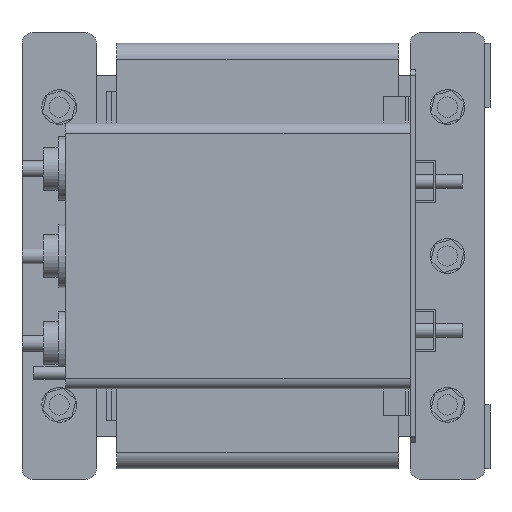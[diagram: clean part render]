
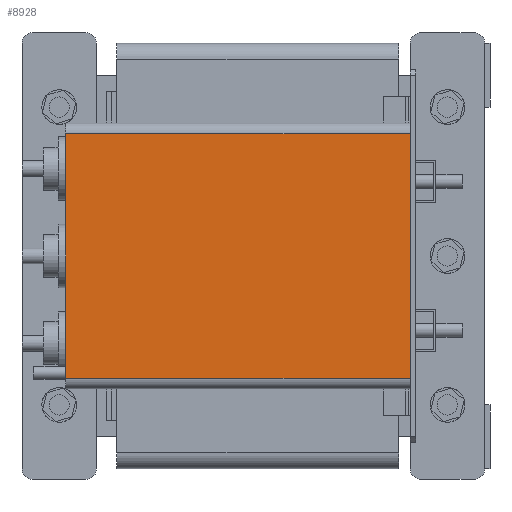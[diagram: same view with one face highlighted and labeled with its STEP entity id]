
A CAD part, left-side view. The second image highlights one B-rep face of the part: STEP entity #8928.
In plain terms, the highlighted planar face has unit normal (-1, 0, 0).
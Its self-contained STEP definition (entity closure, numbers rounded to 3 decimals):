
#399=PLANE('',#9754);
#926=FACE_OUTER_BOUND('',#1517,.T.);
#1517=EDGE_LOOP('',(#7344,#7345,#7346,#7347));
#2235=LINE('',#14043,#3190);
#2274=LINE('',#14148,#3229);
#2275=LINE('',#14151,#3230);
#2276=LINE('',#14152,#3231);
#3190=VECTOR('',#11517,10.);
#3229=VECTOR('',#11618,10.);
#3230=VECTOR('',#11621,10.);
#3231=VECTOR('',#11622,10.);
#4370=VERTEX_POINT('',#14040);
#4371=VERTEX_POINT('',#14042);
#4406=VERTEX_POINT('',#14146);
#4407=VERTEX_POINT('',#14150);
#5402=EDGE_CURVE('',#4370,#4371,#2235,.T.);
#5455=EDGE_CURVE('',#4370,#4406,#2274,.T.);
#5456=EDGE_CURVE('',#4407,#4406,#2275,.T.);
#5457=EDGE_CURVE('',#4371,#4407,#2276,.T.);
#7344=ORIENTED_EDGE('',*,*,#5402,.F.);
#7345=ORIENTED_EDGE('',*,*,#5455,.T.);
#7346=ORIENTED_EDGE('',*,*,#5456,.F.);
#7347=ORIENTED_EDGE('',*,*,#5457,.F.);
#8928=ADVANCED_FACE('',(#926),#399,.T.);
#9754=AXIS2_PLACEMENT_3D('',#14149,#11619,#11620);
#11517=DIRECTION('',(0.,0.,-1.));
#11618=DIRECTION('',(0.,1.,0.));
#11619=DIRECTION('center_axis',(-1.,0.,0.));
#11620=DIRECTION('ref_axis',(0.,0.,
1.));
#11621=DIRECTION('',(0.,0.,1.));
#11622=DIRECTION('',(0.,1.,0.));
#14040=CARTESIAN_POINT('',(-320.,-11.,115.));
#14042=CARTESIAN_POINT('',(-320.,-11.,-115.));
#14043=CARTESIAN_POINT('',(-320.,-11.,42.5));
#14146=CARTESIAN_POINT('',(-320.,313.,115.));
#14148=CARTESIAN_POINT('',(-320.,-11.,115.));
#14149=CARTESIAN_POINT('Origin',(-320.,-11.,-115.));
#14150=CARTESIAN_POINT('',(-320.,313.,-115.));
#14151=CARTESIAN_POINT('',(-320.,313.,-115.));
#14152=CARTESIAN_POINT('',(-320.,-11.,-115.));
